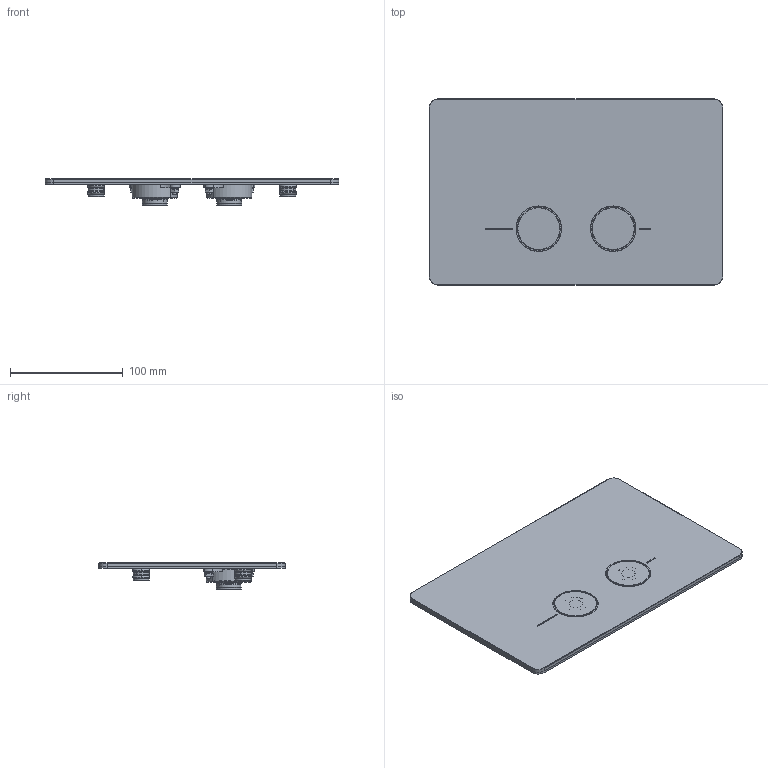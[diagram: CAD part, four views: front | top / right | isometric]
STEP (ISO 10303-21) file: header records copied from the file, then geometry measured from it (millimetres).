
FILE_DESCRIPTION (( 'STEP AP203' ), '1' );
FILE_NAME ('PWT1.STEP', '2024-01-30T08:10:42', ( '' ), ( '' ), 'SwSTEP 2.0', 'SolidWorks 2023', '' );
FILE_SCHEMA (( 'CONFIG_CONTROL_DESIGN' ));
Length unit declared in the file: millimetre
Products named in the file (15): C28.2612.00.0; C12.00.0054; AS1015_00; C24.2511.00.1; C21.2512.00.0; C12.00.0005; C11.11.0008; C25.2513.00.0; C25.2611.00.2; AS1053_02; C47.00.0075.00; PERSAL410; PWT1; C25.2507.00.0; C11.12.0019
Assembly tree (38 placements, depth 3):
  PWT1
    AS1053_02
      C25.2611.00.2
      PERSAL410  x8
    C12.00.0054  x8
    C24.2511.00.1  x4
    AS1015_00  x2
      C21.2512.00.0
      C25.2507.00.0
      C47.00.0075.00
      C25.2513.00.0
      C12.00.0005
    C11.12.0019  x4
    C11.11.0008  x4
    C28.2612.00.0
Bounding box: 260 x 165 x 23.8 mm (x, y, z)
Volume: 165805.8 mm3; surface area: 133605.6 mm2
Topology: 40 solids, 40 shells, 918 faces, 1924 edges, 1144 vertices
Faces by surface type: cylinder 294, plane 264, torus 236, cone 120, bspline 4
Entity records: 11482 total; most frequent: CARTESIAN_POINT 2022, DIRECTION 1755, ORIENTED_EDGE 1344, AXIS2_PLACEMENT_3D 745, EDGE_CURVE 672, VERTEX_POINT 408, CIRCLE 393, EDGE_LOOP 356
